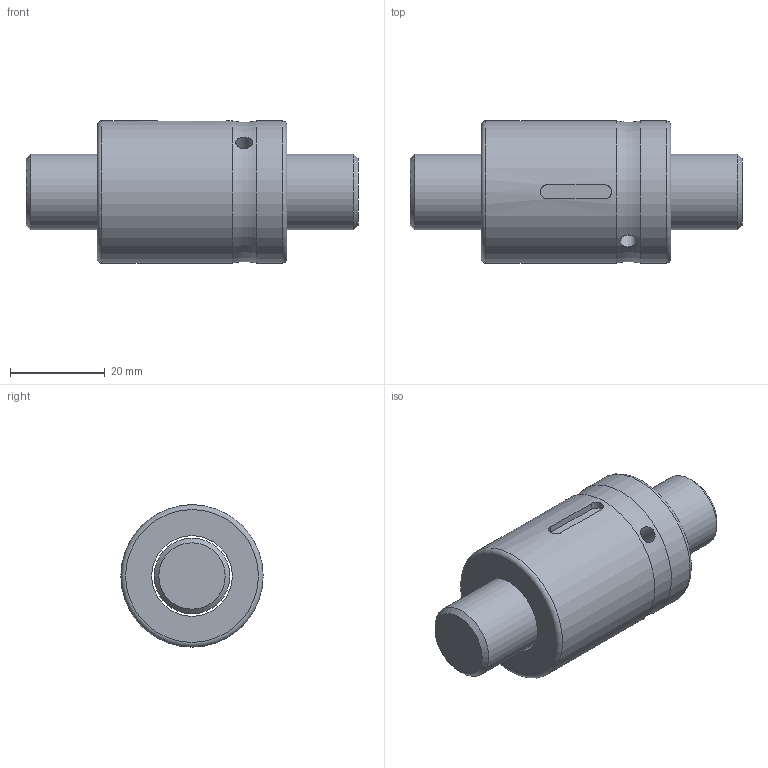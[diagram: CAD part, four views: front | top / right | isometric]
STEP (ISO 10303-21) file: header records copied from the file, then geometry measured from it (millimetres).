
FILE_DESCRIPTION(/* description */ (''),/* implementation_level */ '2;1');
FILE_NAME(/* name */ 'SCI1604',/* time_stamp */ '2007-10-26T13:16:11+08:00',/* author */ (''),/* organization */ (''),/* preprocessor_version */ 'ST-DEVELOPER v9',/* originating_system */ 'EDS PLM SOLUTIONS - UNIGRAPHICS NX 1.0',/* authorisation */ '');
FILE_SCHEMA (('CONFIG_CONTROL_DESIGN'));
Length unit declared in the file: millimetre
Products named in the file (1): FANNDA0400h6
Bounding box: 70 x 30 x 30 mm (x, y, z)
Volume: 32961.9 mm3; surface area: 10739.5 mm2
Topology: 2 solids, 2 shells, 19 faces, 37 edges, 23 vertices
Faces by surface type: plane 7, cylinder 7, torus 3, cone 2
Full cylindrical faces by diameter (mm): 3.5 x1, 16 x1, 17 x1, 30 x2
Entity records: 607 total; most frequent: CARTESIAN_POINT 165, DIRECTION 76, ORIENTED_EDGE 52, EDGE_LOOP 34, AXIS2_PLACEMENT_3D 34, EDGE_CURVE 26, FACE_BOUND 23, VERTEX_POINT 22
